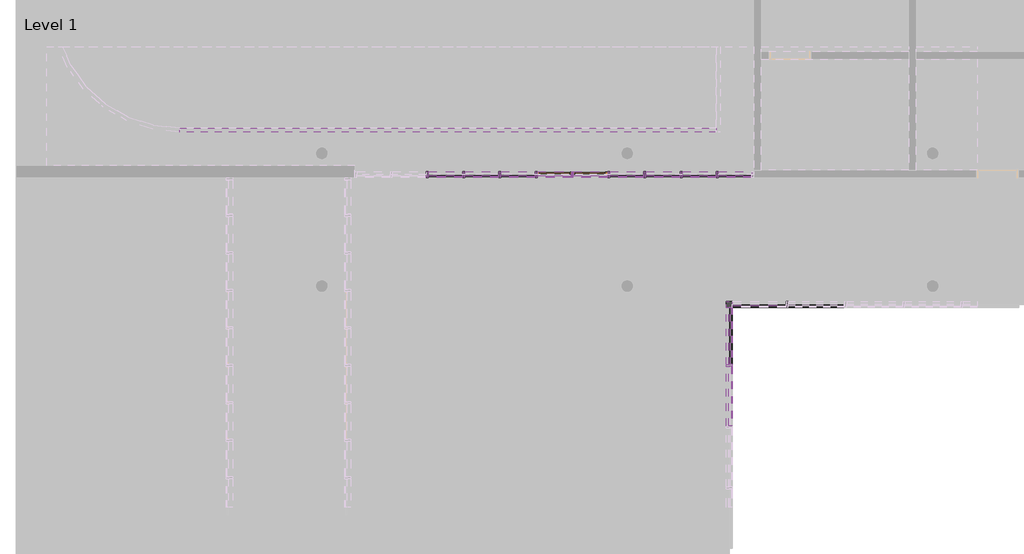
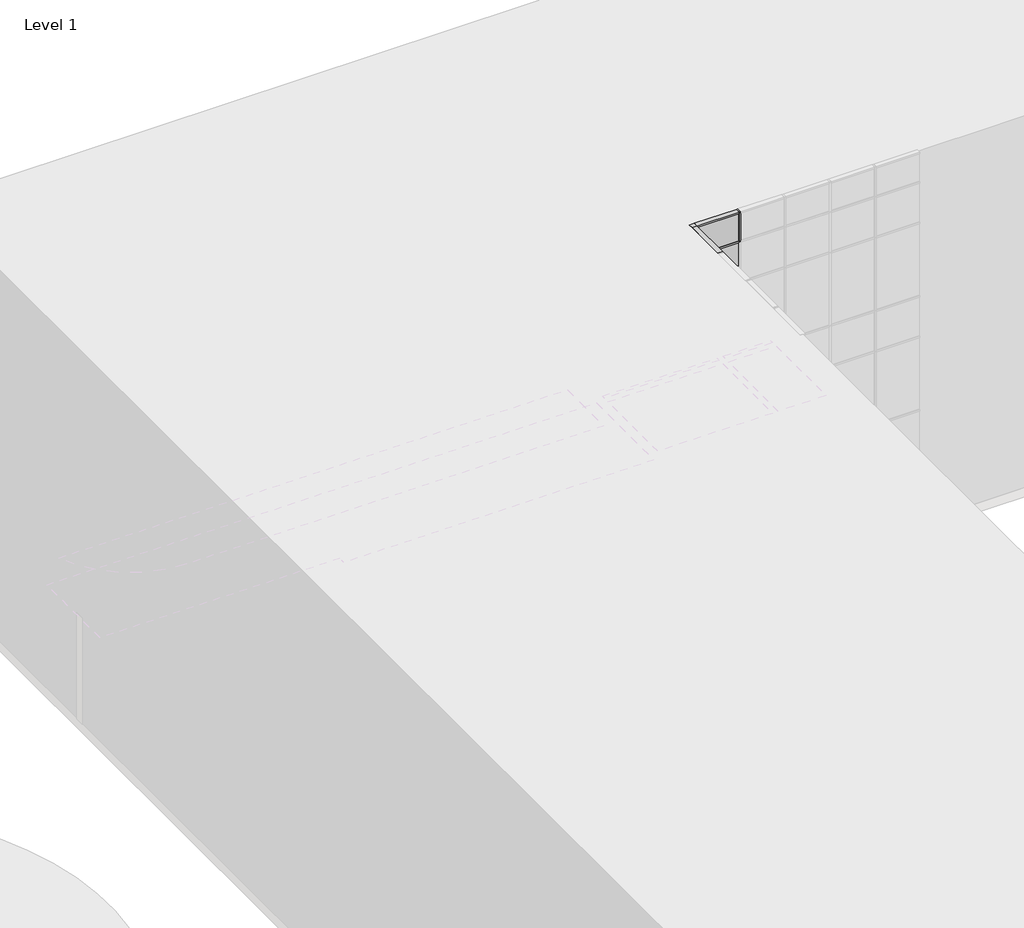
# One storey, part 14 of 18: 89 members, 30 plates, 1 door, 1 wall.
"""IFC4 building model written with IfcOpenShell, lengths in millimetres."""

from ifc_helpers import new_model, si_unit, frame, origin, place, context, project, spatial, polyline, outline, extrude, transform, mapped, element, save
from components import m_door_curtain_wall_double_storefront_m_door_curtain_wall_1244dbcd, quad_corner_mullion_quad_mullion_1_893af7fe, quad_corner_mullion_quad_mullion_1_37ac55ff, quad_corner_mullion_quad_mullion_1_d5379b67, rectangular_mullion_50mm_x_150mm_13593f2b, rectangular_mullion_50mm_x_150mm_0e57614d, rectangular_mullion_50mm_x_150mm_d8a63713, rectangular_mullion_50mm_x_150mm_a5e1a8f4, rectangular_mullion_50mm_x_150mm_caa46ae3, rectangular_mullion_50mm_x_150mm_228869d4, rectangular_mullion_50mm_x_150mm_eff96389, rectangular_mullion_50mm_x_150mm_a28728bf, rectangular_mullion_50mm_x_150mm_1cdaa0f1, rectangular_mullion_50mm_x_150mm_5226f6e8, rectangular_mullion_50mm_x_150mm_5a36e067, rectangular_mullion_50mm_x_150mm_4fd86324, rectangular_mullion_50mm_x_150mm_6edb5cd3, rectangular_mullion_50mm_x_150mm_4d4922e7, rectangular_mullion_50mm_x_150mm_da00b109, rectangular_mullion_50mm_x_150mm_bbc1c4ea, rectangular_mullion_50mm_x_150mm_36202a7c, rectangular_mullion_50mm_x_150mm_84717ec5, system_panel_glazed_dff54dbd, system_panel_glazed_4aef0c34, system_panel_glazed_3f9df8c7, system_panel_glazed_45ebec01, system_panel_glazed_2d0f29b6, system_panel_glazed_cb2ac81e, system_panel_glazed_0db3b356, system_panel_glazed_231014a1, system_panel_solid_281aa57f, system_panel_solid_71fc82a1, system_panel_solid_0b170172, system_panel_solid_c5c66014, system_panel_solid_b23a9ee6

model = new_model("IFC4")

# Units and contexts
model_context = context("Model", 3, world=origin())
ifc_project = project(units=[si_unit("LENGTHUNIT", "METRE", prefix="MILLI")], contexts=[model_context])

# Site, building, storey
site = spatial("IfcSite", under=ifc_project)
building = spatial("IfcBuilding", under=site)
storey = spatial("IfcBuildingStorey", under=building, Name="Level 1", Elevation=0.0)

# Door
placement = place(None, origin())
m_door_curtain_wall_double_storefront_m_door_curtain_wall_shape = m_door_curtain_wall_double_storefront_m_door_curtain_wall_1244dbcd(model_context)
element("IfcDoor", 1, ObjectType="M_Door-Curtain-Wall-Double-Storefront : M_Door-Curtain-Wall-Double-Storefront", at=placement, inside=storey, context=model_context, shape_type="MappedRepresentation", body=[
    mapped(m_door_curtain_wall_double_storefront_m_door_curtain_wall_shape, transform((3603.7102833, 22595.5799804, 0.0), x_axis=(-1.0, 0.0, 0.0), y_axis=(0.0, -1.0, 0.0), z_axis=(0.0, 0.0, 1.0))),
])

# Members
quad_corner_mullion_quad_mullion_1_shape = quad_corner_mullion_quad_mullion_1_893af7fe(model_context)
element("IfcMember", 2, ObjectType="Quad Corner Mullion : Quad Mullion 1", at=placement, inside=storey, context=model_context, shape_type="MappedRepresentation", body=[
    mapped(quad_corner_mullion_quad_mullion_1_shape, transform((7447.5010724, 19414.8392059, 11400.0), x_axis=(0.0, 1.0, 0.0), y_axis=(1.0, 0.0, 0.0), z_axis=(0.0, 0.0, -1.0))),
])
quad_corner_mullion_quad_mullion_1_2_shape = quad_corner_mullion_quad_mullion_1_37ac55ff(model_context)
element("IfcMember", 3, ObjectType="Quad Corner Mullion : Quad Mullion 1", at=placement, inside=storey, context=model_context, shape_type="MappedRepresentation", body=[
    mapped(quad_corner_mullion_quad_mullion_1_2_shape, transform((7447.5010724, 19414.8392059, 0.0), x_axis=(0.0, 1.0, 0.0), y_axis=(1.0, 0.0, 0.0), z_axis=(0.0, 0.0, -1.0))),
])
quad_corner_mullion_quad_mullion_1_3_shape = quad_corner_mullion_quad_mullion_1_d5379b67(model_context)
element("IfcMember", 4, ObjectType="Quad Corner Mullion : Quad Mullion 1", at=placement, inside=storey, context=model_context, shape_type="MappedRepresentation", body=[
    mapped(quad_corner_mullion_quad_mullion_1_3_shape, transform((7447.5010724, 19414.8392059, 10040.0), x_axis=(0.0, 1.0, 0.0), y_axis=(1.0, 0.0, 0.0), z_axis=(0.0, 0.0, -1.0))),
])
element("IfcMember", 5, ObjectType="Quad Corner Mullion : Quad Mullion 1", at=placement, inside=storey, context=model_context, shape_type="MappedRepresentation", body=[
    mapped(quad_corner_mullion_quad_mullion_1_3_shape, transform((7447.5010724, 19414.8392059, 6240.0), x_axis=(0.0, 1.0, 0.0), y_axis=(1.0, 0.0, 0.0), z_axis=(0.0, 0.0, -1.0))),
])
element("IfcMember", 6, ObjectType="Quad Corner Mullion : Quad Mullion 1", at=placement, inside=storey, context=model_context, shape_type="MappedRepresentation", body=[
    mapped(quad_corner_mullion_quad_mullion_1_3_shape, transform((7447.5010724, 19414.8392059, 2440.0), x_axis=(0.0, 1.0, 0.0), y_axis=(1.0, 0.0, 0.0), z_axis=(0.0, 0.0, -1.0))),
])
element("IfcMember", 7, ObjectType="Quad Corner Mullion : Quad Mullion 1", at=placement, inside=storey, context=model_context, shape_type="MappedRepresentation", body=[
    mapped(quad_corner_mullion_quad_mullion_1_2_shape, transform((7447.5010724, 19414.8392059, 3800.0), x_axis=(0.0, 1.0, 0.0), y_axis=(1.0, 0.0, 0.0), z_axis=(0.0, 0.0, -1.0))),
])
element("IfcMember", 8, ObjectType="Quad Corner Mullion : Quad Mullion 1", at=placement, inside=storey, context=model_context, shape_type="MappedRepresentation", body=[
    mapped(quad_corner_mullion_quad_mullion_1_2_shape, transform((7447.5010724, 19414.8392059, 7600.0), x_axis=(0.0, 1.0, 0.0), y_axis=(1.0, 0.0, 0.0), z_axis=(0.0, 0.0, -1.0))),
])
rectangular_mullion_50mm_x_150mm_shape = rectangular_mullion_50mm_x_150mm_13593f2b(model_context)
element("IfcMember", 9, ObjectType="Rectangular Mullion : 50mm x 150mm", at=placement, inside=storey, context=model_context, shape_type="MappedRepresentation", body=[
    mapped(rectangular_mullion_50mm_x_150mm_shape, transform((7997.5010724, 22595.5799804, 0.0), x_axis=(0.0, 0.0, -1.0), y_axis=(0.0, 1.0, 0.0), z_axis=(1.0, 0.0, 0.0))),
])
element("IfcMember", 10, ObjectType="Rectangular Mullion : 50mm x 150mm", at=placement, inside=storey, context=model_context, shape_type="MappedRepresentation", body=[
    mapped(rectangular_mullion_50mm_x_150mm_shape, transform((7183.7429143, 22595.5799804, 3550.0), x_axis=(0.0, 0.0, 1.0), y_axis=(0.0, 1.0, 0.0), z_axis=(-1.0, 0.0, 0.0))),
])
rectangular_mullion_50mm_x_150mm_2_shape = rectangular_mullion_50mm_x_150mm_0e57614d(model_context)
element("IfcMember", 11, ObjectType="Rectangular Mullion : 50mm x 150mm", at=placement, inside=storey, context=model_context, shape_type="MappedRepresentation", body=[
    mapped(rectangular_mullion_50mm_x_150mm_2_shape, transform((6294.9847566, 22595.5799804, 3550.0), x_axis=(0.0, 0.0, 1.0), y_axis=(0.0, 1.0, 0.0), z_axis=(-1.0, 0.0, 0.0))),
])
element("IfcMember", 12, ObjectType="Rectangular Mullion : 50mm x 150mm", at=placement, inside=storey, context=model_context, shape_type="MappedRepresentation", body=[
    mapped(rectangular_mullion_50mm_x_150mm_2_shape, transform((5406.2265988, 22595.5799804, 3550.0), x_axis=(0.0, 0.0, 1.0), y_axis=(0.0, 1.0, 0.0), z_axis=(-1.0, 0.0, 0.0))),
])
element("IfcMember", 13, ObjectType="Rectangular Mullion : 50mm x 150mm", at=placement, inside=storey, context=model_context, shape_type="MappedRepresentation", body=[
    mapped(rectangular_mullion_50mm_x_150mm_2_shape, transform((4517.4684411, 22595.5799804, 3550.0), x_axis=(0.0, 0.0, 1.0), y_axis=(0.0, 1.0, 0.0), z_axis=(-1.0, 0.0, 0.0))),
])
element("IfcMember", 14, ObjectType="Rectangular Mullion : 50mm x 150mm", at=placement, inside=storey, context=model_context, shape_type="MappedRepresentation", body=[
    mapped(rectangular_mullion_50mm_x_150mm_2_shape, transform((3628.7102833, 22595.5799804, 3550.0), x_axis=(0.0, 0.0, 1.0), y_axis=(0.0, 1.0, 0.0), z_axis=(-1.0, 0.0, 0.0))),
])
element("IfcMember", 15, ObjectType="Rectangular Mullion : 50mm x 150mm", at=placement, inside=storey, context=model_context, shape_type="MappedRepresentation", body=[
    mapped(rectangular_mullion_50mm_x_150mm_2_shape, transform((2739.9521255, 22595.5799804, 3550.0), x_axis=(0.0, 0.0, 1.0), y_axis=(0.0, 1.0, 0.0), z_axis=(-1.0, 0.0, 0.0))),
])
element("IfcMember", 16, ObjectType="Rectangular Mullion : 50mm x 150mm", at=placement, inside=storey, context=model_context, shape_type="MappedRepresentation", body=[
    mapped(rectangular_mullion_50mm_x_150mm_2_shape, transform((1851.1939678, 22595.5799804, 3550.0), x_axis=(0.0, 0.0, 1.0), y_axis=(0.0, 1.0, 0.0), z_axis=(-1.0, 0.0, 0.0))),
])
element("IfcMember", 17, ObjectType="Rectangular Mullion : 50mm x 150mm", at=placement, inside=storey, context=model_context, shape_type="MappedRepresentation", body=[
    mapped(rectangular_mullion_50mm_x_150mm_2_shape, transform((962.43581, 22595.5799804, 3550.0), x_axis=(0.0, 0.0, 1.0), y_axis=(0.0, 1.0, 0.0), z_axis=(-1.0, 0.0, 0.0))),
])
element("IfcMember", 18, ObjectType="Rectangular Mullion : 50mm x 150mm", at=placement, inside=storey, context=model_context, shape_type="MappedRepresentation", body=[
    mapped(rectangular_mullion_50mm_x_150mm_2_shape, transform((73.6776523, 22595.5799804, 3550.0), x_axis=(0.0, 0.0, 1.0), y_axis=(0.0, 1.0, 0.0), z_axis=(-1.0, 0.0, 0.0))),
])
element("IfcMember", 19, ObjectType="Rectangular Mullion : 50mm x 150mm", at=placement, inside=storey, context=model_context, shape_type="MappedRepresentation", body=[
    mapped(rectangular_mullion_50mm_x_150mm_2_shape, transform((7133.7429143, 22595.5799804, 0.0), x_axis=(0.0, 0.0, -1.0), y_axis=(0.0, 1.0, 0.0), z_axis=(1.0, 0.0, 0.0))),
])
element("IfcMember", 20, ObjectType="Rectangular Mullion : 50mm x 150mm", at=placement, inside=storey, context=model_context, shape_type="MappedRepresentation", body=[
    mapped(rectangular_mullion_50mm_x_150mm_2_shape, transform((6244.9847566, 22595.5799804, 0.0), x_axis=(0.0, 0.0, -1.0), y_axis=(0.0, 1.0, 0.0), z_axis=(1.0, 0.0, 0.0))),
])
element("IfcMember", 21, ObjectType="Rectangular Mullion : 50mm x 150mm", at=placement, inside=storey, context=model_context, shape_type="MappedRepresentation", body=[
    mapped(rectangular_mullion_50mm_x_150mm_2_shape, transform((5356.2265988, 22595.5799804, 0.0), x_axis=(0.0, 0.0, -1.0), y_axis=(0.0, 1.0, 0.0), z_axis=(1.0, 0.0, 0.0))),
])
element("IfcMember", 22, ObjectType="Rectangular Mullion : 50mm x 150mm", at=placement, inside=storey, context=model_context, shape_type="MappedRepresentation", body=[
    mapped(rectangular_mullion_50mm_x_150mm_2_shape, transform((2689.9521255, 22595.5799804, 0.0), x_axis=(0.0, 0.0, -1.0), y_axis=(0.0, 1.0, 0.0), z_axis=(1.0, 0.0, 0.0))),
])
element("IfcMember", 23, ObjectType="Rectangular Mullion : 50mm x 150mm", at=placement, inside=storey, context=model_context, shape_type="MappedRepresentation", body=[
    mapped(rectangular_mullion_50mm_x_150mm_2_shape, transform((1801.1939678, 22595.5799804, 0.0), x_axis=(0.0, 0.0, -1.0), y_axis=(0.0, 1.0, 0.0), z_axis=(1.0, 0.0, 0.0))),
])
element("IfcMember", 24, ObjectType="Rectangular Mullion : 50mm x 150mm", at=placement, inside=storey, context=model_context, shape_type="MappedRepresentation", body=[
    mapped(rectangular_mullion_50mm_x_150mm_2_shape, transform((912.43581, 22595.5799804, 0.0), x_axis=(0.0, 0.0, -1.0), y_axis=(0.0, 1.0, 0.0), z_axis=(1.0, 0.0, 0.0))),
])
element("IfcMember", 25, ObjectType="Rectangular Mullion : 50mm x 150mm", at=placement, inside=storey, context=model_context, shape_type="MappedRepresentation", body=[
    mapped(rectangular_mullion_50mm_x_150mm_2_shape, transform((23.6776523, 22595.5799804, 0.0), x_axis=(0.0, 0.0, -1.0), y_axis=(0.0, 1.0, 0.0), z_axis=(1.0, 0.0, 0.0))),
])
rectangular_mullion_50mm_x_150mm_3_shape = rectangular_mullion_50mm_x_150mm_d8a63713(model_context)
element("IfcMember", 26, ObjectType="Rectangular Mullion : 50mm x 150mm", at=placement, inside=storey, context=model_context, shape_type="MappedRepresentation", body=[
    mapped(rectangular_mullion_50mm_x_150mm_3_shape, transform((7158.7429143, 22595.5799804, 0.0), x_axis=(-1.0, 0.0, 0.0), y_axis=(0.0, 1.0, 0.0), z_axis=(0.0, 0.0, -1.0))),
])
element("IfcMember", 27, ObjectType="Rectangular Mullion : 50mm x 150mm", at=placement, inside=storey, context=model_context, shape_type="MappedRepresentation", body=[
    mapped(rectangular_mullion_50mm_x_150mm_3_shape, transform((6269.9847566, 22595.5799804, 0.0), x_axis=(-1.0, 0.0, 0.0), y_axis=(0.0, 1.0, 0.0), z_axis=(0.0, 0.0, -1.0))),
])
element("IfcMember", 28, ObjectType="Rectangular Mullion : 50mm x 150mm", at=placement, inside=storey, context=model_context, shape_type="MappedRepresentation", body=[
    mapped(rectangular_mullion_50mm_x_150mm_3_shape, transform((5381.2265988, 22595.5799804, 0.0), x_axis=(-1.0, 0.0, 0.0), y_axis=(0.0, 1.0, 0.0), z_axis=(0.0, 0.0, -1.0))),
])
element("IfcMember", 29, ObjectType="Rectangular Mullion : 50mm x 150mm", at=placement, inside=storey, context=model_context, shape_type="MappedRepresentation", body=[
    mapped(rectangular_mullion_50mm_x_150mm_3_shape, transform((4492.4684411, 22595.5799804, 0.0), x_axis=(-1.0, 0.0, 0.0), y_axis=(0.0, 1.0, 0.0), z_axis=(0.0, 0.0, -1.0))),
])
element("IfcMember", 30, ObjectType="Rectangular Mullion : 50mm x 150mm", at=placement, inside=storey, context=model_context, shape_type="MappedRepresentation", body=[
    mapped(rectangular_mullion_50mm_x_150mm_3_shape, transform((2714.9521255, 22595.5799804, 0.0), x_axis=(-1.0, 0.0, 0.0), y_axis=(0.0, 1.0, 0.0), z_axis=(0.0, 0.0, -1.0))),
])
element("IfcMember", 31, ObjectType="Rectangular Mullion : 50mm x 150mm", at=placement, inside=storey, context=model_context, shape_type="MappedRepresentation", body=[
    mapped(rectangular_mullion_50mm_x_150mm_3_shape, transform((1826.1939678, 22595.5799804, 0.0), x_axis=(-1.0, 0.0, 0.0), y_axis=(0.0, 1.0, 0.0), z_axis=(0.0, 0.0, -1.0))),
])
element("IfcMember", 32, ObjectType="Rectangular Mullion : 50mm x 150mm", at=placement, inside=storey, context=model_context, shape_type="MappedRepresentation", body=[
    mapped(rectangular_mullion_50mm_x_150mm_3_shape, transform((937.43581, 22595.5799804, 0.0), x_axis=(-1.0, 0.0, 0.0), y_axis=(0.0, 1.0, 0.0), z_axis=(0.0, 0.0, -1.0))),
])
element("IfcMember", 33, ObjectType="Rectangular Mullion : 50mm x 150mm", at=placement, inside=storey, context=model_context, shape_type="MappedRepresentation", body=[
    mapped(rectangular_mullion_50mm_x_150mm_3_shape, transform((48.6776523, 22595.5799804, 0.0), x_axis=(-1.0, 0.0, 0.0), y_axis=(0.0, 1.0, 0.0), z_axis=(0.0, 0.0, -1.0))),
])
rectangular_mullion_50mm_x_150mm_4_shape = rectangular_mullion_50mm_x_150mm_a5e1a8f4(model_context)
element("IfcMember", 34, ObjectType="Rectangular Mullion : 50mm x 150mm", at=placement, inside=storey, context=model_context, shape_type="MappedRepresentation", body=[
    mapped(rectangular_mullion_50mm_x_150mm_4_shape, transform((7183.7429143, 22595.5799804, 2235.0), x_axis=(0.0, 0.0, 1.0), y_axis=(0.0, 1.0, 0.0), z_axis=(-1.0, 0.0, 0.0))),
])
element("IfcMember", 35, ObjectType="Rectangular Mullion : 50mm x 150mm", at=placement, inside=storey, context=model_context, shape_type="MappedRepresentation", body=[
    mapped(rectangular_mullion_50mm_x_150mm_4_shape, transform((7183.7429143, 22595.5799804, 2135.0), x_axis=(0.0, 0.0, 1.0), y_axis=(0.0, 1.0, 0.0), z_axis=(-1.0, 0.0, 0.0))),
])
rectangular_mullion_50mm_x_150mm_5_shape = rectangular_mullion_50mm_x_150mm_caa46ae3(model_context)
element("IfcMember", 36, ObjectType="Rectangular Mullion : 50mm x 150mm", at=placement, inside=storey, context=model_context, shape_type="MappedRepresentation", body=[
    mapped(rectangular_mullion_50mm_x_150mm_5_shape, transform((6294.9847566, 22595.5799804, 2235.0), x_axis=(0.0, 0.0, 1.0), y_axis=(0.0, 1.0, 0.0), z_axis=(-1.0, 0.0, 0.0))),
])
element("IfcMember", 37, ObjectType="Rectangular Mullion : 50mm x 150mm", at=placement, inside=storey, context=model_context, shape_type="MappedRepresentation", body=[
    mapped(rectangular_mullion_50mm_x_150mm_5_shape, transform((5406.2265988, 22595.5799804, 2235.0), x_axis=(0.0, 0.0, 1.0), y_axis=(0.0, 1.0, 0.0), z_axis=(-1.0, 0.0, 0.0))),
])
element("IfcMember", 38, ObjectType="Rectangular Mullion : 50mm x 150mm", at=placement, inside=storey, context=model_context, shape_type="MappedRepresentation", body=[
    mapped(rectangular_mullion_50mm_x_150mm_5_shape, transform((4517.4684411, 22595.5799804, 2235.0), x_axis=(0.0, 0.0, 1.0), y_axis=(0.0, 1.0, 0.0), z_axis=(-1.0, 0.0, 0.0))),
])
element("IfcMember", 39, ObjectType="Rectangular Mullion : 50mm x 150mm", at=placement, inside=storey, context=model_context, shape_type="MappedRepresentation", body=[
    mapped(rectangular_mullion_50mm_x_150mm_5_shape, transform((1851.1939678, 22595.5799804, 2235.0), x_axis=(0.0, 0.0, 1.0), y_axis=(0.0, 1.0, 0.0), z_axis=(-1.0, 0.0, 0.0))),
])
element("IfcMember", 40, ObjectType="Rectangular Mullion : 50mm x 150mm", at=placement, inside=storey, context=model_context, shape_type="MappedRepresentation", body=[
    mapped(rectangular_mullion_50mm_x_150mm_5_shape, transform((962.43581, 22595.5799804, 2235.0), x_axis=(0.0, 0.0, 1.0), y_axis=(0.0, 1.0, 0.0), z_axis=(-1.0, 0.0, 0.0))),
])
element("IfcMember", 41, ObjectType="Rectangular Mullion : 50mm x 150mm", at=placement, inside=storey, context=model_context, shape_type="MappedRepresentation", body=[
    mapped(rectangular_mullion_50mm_x_150mm_5_shape, transform((73.6776523, 22595.5799804, 2235.0), x_axis=(0.0, 0.0, 1.0), y_axis=(0.0, 1.0, 0.0), z_axis=(-1.0, 0.0, 0.0))),
])
element("IfcMember", 42, ObjectType="Rectangular Mullion : 50mm x 150mm", at=placement, inside=storey, context=model_context, shape_type="MappedRepresentation", body=[
    mapped(rectangular_mullion_50mm_x_150mm_5_shape, transform((6294.9847566, 22595.5799804, 2135.0), x_axis=(0.0, 0.0, 1.0), y_axis=(0.0, 1.0, 0.0), z_axis=(-1.0, 0.0, 0.0))),
])
element("IfcMember", 43, ObjectType="Rectangular Mullion : 50mm x 150mm", at=placement, inside=storey, context=model_context, shape_type="MappedRepresentation", body=[
    mapped(rectangular_mullion_50mm_x_150mm_5_shape, transform((5406.2265988, 22595.5799804, 2135.0), x_axis=(0.0, 0.0, 1.0), y_axis=(0.0, 1.0, 0.0), z_axis=(-1.0, 0.0, 0.0))),
])
element("IfcMember", 44, ObjectType="Rectangular Mullion : 50mm x 150mm", at=placement, inside=storey, context=model_context, shape_type="MappedRepresentation", body=[
    mapped(rectangular_mullion_50mm_x_150mm_5_shape, transform((4517.4684411, 22595.5799804, 2135.0), x_axis=(0.0, 0.0, 1.0), y_axis=(0.0, 1.0, 0.0), z_axis=(-1.0, 0.0, 0.0))),
])
element("IfcMember", 45, ObjectType="Rectangular Mullion : 50mm x 150mm", at=placement, inside=storey, context=model_context, shape_type="MappedRepresentation", body=[
    mapped(rectangular_mullion_50mm_x_150mm_5_shape, transform((3628.7102833, 22595.5799804, 2135.0), x_axis=(0.0, 0.0, 1.0), y_axis=(0.0, 1.0, 0.0), z_axis=(-1.0, 0.0, 0.0))),
])
element("IfcMember", 46, ObjectType="Rectangular Mullion : 50mm x 150mm", at=placement, inside=storey, context=model_context, shape_type="MappedRepresentation", body=[
    mapped(rectangular_mullion_50mm_x_150mm_5_shape, transform((2739.9521255, 22595.5799804, 2135.0), x_axis=(0.0, 0.0, 1.0), y_axis=(0.0, 1.0, 0.0), z_axis=(-1.0, 0.0, 0.0))),
])
element("IfcMember", 47, ObjectType="Rectangular Mullion : 50mm x 150mm", at=placement, inside=storey, context=model_context, shape_type="MappedRepresentation", body=[
    mapped(rectangular_mullion_50mm_x_150mm_5_shape, transform((1851.1939678, 22595.5799804, 2135.0), x_axis=(0.0, 0.0, 1.0), y_axis=(0.0, 1.0, 0.0), z_axis=(-1.0, 0.0, 0.0))),
])
element("IfcMember", 48, ObjectType="Rectangular Mullion : 50mm x 150mm", at=placement, inside=storey, context=model_context, shape_type="MappedRepresentation", body=[
    mapped(rectangular_mullion_50mm_x_150mm_5_shape, transform((962.43581, 22595.5799804, 2135.0), x_axis=(0.0, 0.0, 1.0), y_axis=(0.0, 1.0, 0.0), z_axis=(-1.0, 0.0, 0.0))),
])
element("IfcMember", 49, ObjectType="Rectangular Mullion : 50mm x 150mm", at=placement, inside=storey, context=model_context, shape_type="MappedRepresentation", body=[
    mapped(rectangular_mullion_50mm_x_150mm_5_shape, transform((73.6776523, 22595.5799804, 2135.0), x_axis=(0.0, 0.0, 1.0), y_axis=(0.0, 1.0, 0.0), z_axis=(-1.0, 0.0, 0.0))),
])
rectangular_mullion_50mm_x_150mm_6_shape = rectangular_mullion_50mm_x_150mm_228869d4(model_context)
element("IfcMember", 50, ObjectType="Rectangular Mullion : 50mm x 150mm", at=placement, inside=storey, context=model_context, shape_type="MappedRepresentation", body=[
    mapped(rectangular_mullion_50mm_x_150mm_6_shape, transform((3603.7102833, 22595.5799804, 2235.0), x_axis=(0.0, 0.0, 1.0), y_axis=(0.0, 1.0, 0.0), z_axis=(-1.0, 0.0, 0.0))),
])
element("IfcMember", 51, ObjectType="Rectangular Mullion : 50mm x 150mm", at=placement, inside=storey, context=model_context, shape_type="MappedRepresentation", body=[
    mapped(rectangular_mullion_50mm_x_150mm_6_shape, transform((2739.9521255, 22595.5799804, 2235.0), x_axis=(0.0, 0.0, 1.0), y_axis=(0.0, 1.0, 0.0), z_axis=(-1.0, 0.0, 0.0))),
])
rectangular_mullion_50mm_x_150mm_7_shape = rectangular_mullion_50mm_x_150mm_eff96389(model_context)
element("IfcMember", 52, ObjectType="Rectangular Mullion : 50mm x 150mm", at=placement, inside=storey, context=model_context, shape_type="MappedRepresentation", body=[
    mapped(rectangular_mullion_50mm_x_150mm_7_shape, transform((7158.7429143, 22595.5799804, 2235.0), x_axis=(-1.0, 0.0, 0.0), y_axis=(0.0, 1.0, 0.0), z_axis=(0.0, 0.0, -1.0))),
])
element("IfcMember", 53, ObjectType="Rectangular Mullion : 50mm x 150mm", at=placement, inside=storey, context=model_context, shape_type="MappedRepresentation", body=[
    mapped(rectangular_mullion_50mm_x_150mm_7_shape, transform((6269.9847566, 22595.5799804, 2235.0), x_axis=(-1.0, 0.0, 0.0), y_axis=(0.0, 1.0, 0.0), z_axis=(0.0, 0.0, -1.0))),
])
element("IfcMember", 54, ObjectType="Rectangular Mullion : 50mm x 150mm", at=placement, inside=storey, context=model_context, shape_type="MappedRepresentation", body=[
    mapped(rectangular_mullion_50mm_x_150mm_7_shape, transform((5381.2265988, 22595.5799804, 2235.0), x_axis=(-1.0, 0.0, 0.0), y_axis=(0.0, 1.0, 0.0), z_axis=(0.0, 0.0, -1.0))),
])
element("IfcMember", 55, ObjectType="Rectangular Mullion : 50mm x 150mm", at=placement, inside=storey, context=model_context, shape_type="MappedRepresentation", body=[
    mapped(rectangular_mullion_50mm_x_150mm_7_shape, transform((4492.4684411, 22595.5799804, 2235.0), x_axis=(-1.0, 0.0, 0.0), y_axis=(0.0, 1.0, 0.0), z_axis=(0.0, 0.0, -1.0))),
])
element("IfcMember", 56, ObjectType="Rectangular Mullion : 50mm x 150mm", at=placement, inside=storey, context=model_context, shape_type="MappedRepresentation", body=[
    mapped(rectangular_mullion_50mm_x_150mm_7_shape, transform((2714.9521255, 22595.5799804, 2235.0), x_axis=(-1.0, 0.0, 0.0), y_axis=(0.0, 1.0, 0.0), z_axis=(0.0, 0.0, -1.0))),
])
element("IfcMember", 57, ObjectType="Rectangular Mullion : 50mm x 150mm", at=placement, inside=storey, context=model_context, shape_type="MappedRepresentation", body=[
    mapped(rectangular_mullion_50mm_x_150mm_7_shape, transform((1826.1939678, 22595.5799804, 2235.0), x_axis=(-1.0, 0.0, 0.0), y_axis=(0.0, 1.0, 0.0), z_axis=(0.0, 0.0, -1.0))),
])
element("IfcMember", 58, ObjectType="Rectangular Mullion : 50mm x 150mm", at=placement, inside=storey, context=model_context, shape_type="MappedRepresentation", body=[
    mapped(rectangular_mullion_50mm_x_150mm_7_shape, transform((937.43581, 22595.5799804, 2235.0), x_axis=(-1.0, 0.0, 0.0), y_axis=(0.0, 1.0, 0.0), z_axis=(0.0, 0.0, -1.0))),
])
element("IfcMember", 59, ObjectType="Rectangular Mullion : 50mm x 150mm", at=placement, inside=storey, context=model_context, shape_type="MappedRepresentation", body=[
    mapped(rectangular_mullion_50mm_x_150mm_7_shape, transform((48.6776523, 22595.5799804, 2235.0), x_axis=(-1.0, 0.0, 0.0), y_axis=(0.0, 1.0, 0.0), z_axis=(0.0, 0.0, -1.0))),
])
rectangular_mullion_50mm_x_150mm_8_shape = rectangular_mullion_50mm_x_150mm_a28728bf(model_context)
element("IfcMember", 60, ObjectType="Rectangular Mullion : 50mm x 150mm", at=placement, inside=storey, context=model_context, shape_type="MappedRepresentation", body=[
    mapped(rectangular_mullion_50mm_x_150mm_8_shape, transform((7158.7429143, 22595.5799804, 2135.0), x_axis=(-1.0, 0.0, 0.0), y_axis=(0.0, 1.0, 0.0), z_axis=(0.0, 0.0, -1.0))),
])
element("IfcMember", 61, ObjectType="Rectangular Mullion : 50mm x 150mm", at=placement, inside=storey, context=model_context, shape_type="MappedRepresentation", body=[
    mapped(rectangular_mullion_50mm_x_150mm_8_shape, transform((6269.9847566, 22595.5799804, 2135.0), x_axis=(-1.0, 0.0, 0.0), y_axis=(0.0, 1.0, 0.0), z_axis=(0.0, 0.0, -1.0))),
])
element("IfcMember", 62, ObjectType="Rectangular Mullion : 50mm x 150mm", at=placement, inside=storey, context=model_context, shape_type="MappedRepresentation", body=[
    mapped(rectangular_mullion_50mm_x_150mm_8_shape, transform((5381.2265988, 22595.5799804, 2135.0), x_axis=(-1.0, 0.0, 0.0), y_axis=(0.0, 1.0, 0.0), z_axis=(0.0, 0.0, -1.0))),
])
element("IfcMember", 63, ObjectType="Rectangular Mullion : 50mm x 150mm", at=placement, inside=storey, context=model_context, shape_type="MappedRepresentation", body=[
    mapped(rectangular_mullion_50mm_x_150mm_8_shape, transform((4492.4684411, 22595.5799804, 2135.0), x_axis=(-1.0, 0.0, 0.0), y_axis=(0.0, 1.0, 0.0), z_axis=(0.0, 0.0, -1.0))),
])
element("IfcMember", 64, ObjectType="Rectangular Mullion : 50mm x 150mm", at=placement, inside=storey, context=model_context, shape_type="MappedRepresentation", body=[
    mapped(rectangular_mullion_50mm_x_150mm_8_shape, transform((2714.9521255, 22595.5799804, 2135.0), x_axis=(-1.0, 0.0, 0.0), y_axis=(0.0, 1.0, 0.0), z_axis=(0.0, 0.0, -1.0))),
])
element("IfcMember", 65, ObjectType="Rectangular Mullion : 50mm x 150mm", at=placement, inside=storey, context=model_context, shape_type="MappedRepresentation", body=[
    mapped(rectangular_mullion_50mm_x_150mm_8_shape, transform((1826.1939678, 22595.5799804, 2135.0), x_axis=(-1.0, 0.0, 0.0), y_axis=(0.0, 1.0, 0.0), z_axis=(0.0, 0.0, -1.0))),
])
element("IfcMember", 66, ObjectType="Rectangular Mullion : 50mm x 150mm", at=placement, inside=storey, context=model_context, shape_type="MappedRepresentation", body=[
    mapped(rectangular_mullion_50mm_x_150mm_8_shape, transform((937.43581, 22595.5799804, 2135.0), x_axis=(-1.0, 0.0, 0.0), y_axis=(0.0, 1.0, 0.0), z_axis=(0.0, 0.0, -1.0))),
])
element("IfcMember", 67, ObjectType="Rectangular Mullion : 50mm x 150mm", at=placement, inside=storey, context=model_context, shape_type="MappedRepresentation", body=[
    mapped(rectangular_mullion_50mm_x_150mm_8_shape, transform((48.6776523, 22595.5799804, 2135.0), x_axis=(-1.0, 0.0, 0.0), y_axis=(0.0, 1.0, 0.0), z_axis=(0.0, 0.0, -1.0))),
])
rectangular_mullion_50mm_x_150mm_9_shape = rectangular_mullion_50mm_x_150mm_1cdaa0f1(model_context)
element("IfcMember", 68, ObjectType="Rectangular Mullion : 50mm x 150mm", at=placement, inside=storey, context=model_context, shape_type="MappedRepresentation", body=[
    mapped(rectangular_mullion_50mm_x_150mm_9_shape, transform((3603.7102833, 22595.5799804, 2110.0), x_axis=(-1.0, 0.0, 0.0), y_axis=(0.0, 1.0, 0.0), z_axis=(0.0, 0.0, -1.0))),
])
rectangular_mullion_50mm_x_150mm_10_shape = rectangular_mullion_50mm_x_150mm_5226f6e8(model_context)
element("IfcMember", 69, ObjectType="Rectangular Mullion : 50mm x 150mm", at=placement, inside=storey, context=model_context, shape_type="MappedRepresentation", body=[
    mapped(rectangular_mullion_50mm_x_150mm_10_shape, transform((7447.5010724, 17887.5915497, 6240.0), x_axis=(0.0, 0.0, 1.0), y_axis=(1.0, 0.0, 0.0), z_axis=(0.0, 1.0, 0.0))),
])
element("IfcMember", 70, ObjectType="Rectangular Mullion : 50mm x 150mm", at=placement, inside=storey, context=model_context, shape_type="MappedRepresentation", body=[
    mapped(rectangular_mullion_50mm_x_150mm_10_shape, transform((7447.5010724, 17887.5915497, 2440.0), x_axis=(0.0, 0.0, 1.0), y_axis=(1.0, 0.0, 0.0), z_axis=(0.0, 1.0, 0.0))),
])
rectangular_mullion_50mm_x_150mm_11_shape = rectangular_mullion_50mm_x_150mm_5a36e067(model_context)
element("IfcMember", 71, ObjectType="Rectangular Mullion : 50mm x 150mm", at=placement, inside=storey, context=model_context, shape_type="MappedRepresentation", body=[
    mapped(rectangular_mullion_50mm_x_150mm_11_shape, transform((8898.529561, 19414.8392059, 0.0), x_axis=(0.0, 0.0, -1.0), y_axis=(0.0, -1.0, 0.0), z_axis=(-1.0, 0.0, 0.0))),
])
rectangular_mullion_50mm_x_150mm_12_shape = rectangular_mullion_50mm_x_150mm_4fd86324(model_context)
element("IfcMember", 72, ObjectType="Rectangular Mullion : 50mm x 150mm", at=placement, inside=storey, context=model_context, shape_type="MappedRepresentation", body=[
    mapped(rectangular_mullion_50mm_x_150mm_12_shape, transform((7447.5010724, 19339.8392059, 12400.0), x_axis=(0.0, 0.0, 1.0), y_axis=(1.0, 0.0, 0.0), z_axis=(0.0, 1.0, 0.0))),
])
element("IfcMember", 73, ObjectType="Rectangular Mullion : 50mm x 150mm", at=placement, inside=storey, context=model_context, shape_type="MappedRepresentation", body=[
    mapped(rectangular_mullion_50mm_x_150mm_12_shape, transform((7447.5010724, 17937.5915497, 0.0), x_axis=(0.0, 0.0, -1.0), y_axis=(1.0, 0.0, 0.0), z_axis=(0.0, -1.0, 0.0))),
])
rectangular_mullion_50mm_x_150mm_13_shape = rectangular_mullion_50mm_x_150mm_6edb5cd3(model_context)
element("IfcMember", 74, ObjectType="Rectangular Mullion : 50mm x 150mm", at=placement, inside=storey, context=model_context, shape_type="MappedRepresentation", body=[
    mapped(rectangular_mullion_50mm_x_150mm_13_shape, transform((7447.5010724, 19339.8392059, 3800.0), x_axis=(0.0, 0.0, 1.0), y_axis=(1.0, 0.0, 0.0), z_axis=(0.0, 1.0, 0.0))),
])
element("IfcMember", 75, ObjectType="Rectangular Mullion : 50mm x 150mm", at=placement, inside=storey, context=model_context, shape_type="MappedRepresentation", body=[
    mapped(rectangular_mullion_50mm_x_150mm_13_shape, transform((7447.5010724, 19339.8392059, 7600.0), x_axis=(0.0, 0.0, 1.0), y_axis=(1.0, 0.0, 0.0), z_axis=(0.0, 1.0, 0.0))),
])
element("IfcMember", 76, ObjectType="Rectangular Mullion : 50mm x 150mm", at=placement, inside=storey, context=model_context, shape_type="MappedRepresentation", body=[
    mapped(rectangular_mullion_50mm_x_150mm_13_shape, transform((7447.5010724, 19339.8392059, 11400.0), x_axis=(0.0, 0.0, 1.0), y_axis=(1.0, 0.0, 0.0), z_axis=(0.0, 1.0, 0.0))),
])
element("IfcMember", 77, ObjectType="Rectangular Mullion : 50mm x 150mm", at=placement, inside=storey, context=model_context, shape_type="MappedRepresentation", body=[
    mapped(rectangular_mullion_50mm_x_150mm_13_shape, transform((7447.5010724, 19339.8392059, 10040.0), x_axis=(0.0, 0.0, 1.0), y_axis=(1.0, 0.0, 0.0), z_axis=(0.0, 1.0, 0.0))),
])
element("IfcMember", 78, ObjectType="Rectangular Mullion : 50mm x 150mm", at=placement, inside=storey, context=model_context, shape_type="MappedRepresentation", body=[
    mapped(rectangular_mullion_50mm_x_150mm_13_shape, transform((7447.5010724, 19339.8392059, 6240.0), x_axis=(0.0, 0.0, 1.0), y_axis=(1.0, 0.0, 0.0), z_axis=(0.0, 1.0, 0.0))),
])
element("IfcMember", 79, ObjectType="Rectangular Mullion : 50mm x 150mm", at=placement, inside=storey, context=model_context, shape_type="MappedRepresentation", body=[
    mapped(rectangular_mullion_50mm_x_150mm_13_shape, transform((7447.5010724, 19339.8392059, 2440.0), x_axis=(0.0, 0.0, 1.0), y_axis=(1.0, 0.0, 0.0), z_axis=(0.0, 1.0, 0.0))),
])
rectangular_mullion_50mm_x_150mm_14_shape = rectangular_mullion_50mm_x_150mm_4d4922e7(model_context)
element("IfcMember", 80, ObjectType="Rectangular Mullion : 50mm x 150mm", at=placement, inside=storey, context=model_context, shape_type="MappedRepresentation", body=[
    mapped(rectangular_mullion_50mm_x_150mm_14_shape, transform((8848.529561, 19414.8392059, 12400.0), x_axis=(0.0, 0.0, 1.0), y_axis=(0.0, -1.0, 0.0), z_axis=(1.0, 0.0, 0.0))),
])
element("IfcMember", 81, ObjectType="Rectangular Mullion : 50mm x 150mm", at=placement, inside=storey, context=model_context, shape_type="MappedRepresentation", body=[
    mapped(rectangular_mullion_50mm_x_150mm_14_shape, transform((7522.5010724, 19414.8392059, 0.0), x_axis=(0.0, 0.0, -1.0), y_axis=(0.0, -1.0, 0.0), z_axis=(-1.0, 0.0, 0.0))),
])
rectangular_mullion_50mm_x_150mm_15_shape = rectangular_mullion_50mm_x_150mm_da00b109(model_context)
element("IfcMember", 82, ObjectType="Rectangular Mullion : 50mm x 150mm", at=placement, inside=storey, context=model_context, shape_type="MappedRepresentation", body=[
    mapped(rectangular_mullion_50mm_x_150mm_15_shape, transform((8848.529561, 19414.8392059, 3800.0), x_axis=(0.0, 0.0, 1.0), y_axis=(0.0, -1.0, 0.0), z_axis=(1.0, 0.0, 0.0))),
])
element("IfcMember", 83, ObjectType="Rectangular Mullion : 50mm x 150mm", at=placement, inside=storey, context=model_context, shape_type="MappedRepresentation", body=[
    mapped(rectangular_mullion_50mm_x_150mm_15_shape, transform((8848.529561, 19414.8392059, 7600.0), x_axis=(0.0, 0.0, 1.0), y_axis=(0.0, -1.0, 0.0), z_axis=(1.0, 0.0, 0.0))),
])
element("IfcMember", 84, ObjectType="Rectangular Mullion : 50mm x 150mm", at=placement, inside=storey, context=model_context, shape_type="MappedRepresentation", body=[
    mapped(rectangular_mullion_50mm_x_150mm_15_shape, transform((8848.529561, 19414.8392059, 11400.0), x_axis=(0.0, 0.0, 1.0), y_axis=(0.0, -1.0, 0.0), z_axis=(1.0, 0.0, 0.0))),
])
rectangular_mullion_50mm_x_150mm_16_shape = rectangular_mullion_50mm_x_150mm_bbc1c4ea(model_context)
element("IfcMember", 85, ObjectType="Rectangular Mullion : 50mm x 150mm", at=placement, inside=storey, context=model_context, shape_type="MappedRepresentation", body=[
    mapped(rectangular_mullion_50mm_x_150mm_16_shape, transform((8873.529561, 19414.8392059, 11400.0), x_axis=(1.0, 0.0, 0.0), y_axis=(0.0, -1.0, 0.0), z_axis=(0.0, 0.0, -1.0))),
])
rectangular_mullion_50mm_x_150mm_17_shape = rectangular_mullion_50mm_x_150mm_36202a7c(model_context)
element("IfcMember", 86, ObjectType="Rectangular Mullion : 50mm x 150mm", at=placement, inside=storey, context=model_context, shape_type="MappedRepresentation", body=[
    mapped(rectangular_mullion_50mm_x_150mm_17_shape, transform((8873.529561, 19414.8392059, 0.0), x_axis=(1.0, 0.0, 0.0), y_axis=(0.0, -1.0, 0.0), z_axis=(0.0, 0.0, -1.0))),
])
rectangular_mullion_50mm_x_150mm_18_shape = rectangular_mullion_50mm_x_150mm_84717ec5(model_context)
element("IfcMember", 87, ObjectType="Rectangular Mullion : 50mm x 150mm", at=placement, inside=storey, context=model_context, shape_type="MappedRepresentation", body=[
    mapped(rectangular_mullion_50mm_x_150mm_18_shape, transform((7447.5010724, 17912.5915497, 6240.0), x_axis=(0.0, 1.0, 0.0), y_axis=(1.0, 0.0, 0.0), z_axis=(0.0, 0.0, -1.0))),
])
element("IfcMember", 88, ObjectType="Rectangular Mullion : 50mm x 150mm", at=placement, inside=storey, context=model_context, shape_type="MappedRepresentation", body=[
    mapped(rectangular_mullion_50mm_x_150mm_18_shape, transform((7447.5010724, 17912.5915497, 2440.0), x_axis=(0.0, 1.0, 0.0), y_axis=(1.0, 0.0, 0.0), z_axis=(0.0, 0.0, -1.0))),
])
element("IfcMember", 89, ObjectType="Rectangular Mullion : 50mm x 150mm", at=placement, inside=storey, context=model_context, shape_type="MappedRepresentation", body=[
    mapped(rectangular_mullion_50mm_x_150mm_17_shape, transform((8873.529561, 19414.8392059, 3800.0), x_axis=(1.0, 0.0, 0.0), y_axis=(0.0, -1.0, 0.0), z_axis=(0.0, 0.0, -1.0))),
])
element("IfcMember", 90, ObjectType="Rectangular Mullion : 50mm x 150mm", at=placement, inside=storey, context=model_context, shape_type="MappedRepresentation", body=[
    mapped(rectangular_mullion_50mm_x_150mm_17_shape, transform((8873.529561, 19414.8392059, 7600.0), x_axis=(1.0, 0.0, 0.0), y_axis=(0.0, -1.0, 0.0), z_axis=(0.0, 0.0, -1.0))),
])

# Plates
system_panel_glazed_shape = system_panel_glazed_dff54dbd(model_context)
element("IfcPlate", 91, ObjectType="System Panel : Glazed", at=placement, inside=storey, context=model_context, shape_type="MappedRepresentation", body=[
    mapped(system_panel_glazed_shape, transform((7590.6219933, 22595.5799804, 50.0), x_axis=(-1.0, 0.0, 0.0), y_axis=(0.0, -1.0, 0.0), z_axis=(0.0, 0.0, 1.0))),
])
system_panel_glazed_2_shape = system_panel_glazed_4aef0c34(model_context)
element("IfcPlate", 92, ObjectType="System Panel : Glazed", at=placement, inside=storey, context=model_context, shape_type="MappedRepresentation", body=[
    mapped(system_panel_glazed_2_shape, transform((6714.3638354, 22595.5799804, 50.0), x_axis=(-1.0, 0.0, 0.0), y_axis=(0.0, -1.0, 0.0), z_axis=(0.0, 0.0, 1.0))),
])
element("IfcPlate", 93, ObjectType="System Panel : Glazed", at=placement, inside=storey, context=model_context, shape_type="MappedRepresentation", body=[
    mapped(system_panel_glazed_2_shape, transform((5825.6056777, 22595.5799804, 50.0), x_axis=(-1.0, 0.0, 0.0), y_axis=(0.0, -1.0, 0.0), z_axis=(0.0, 0.0, 1.0))),
])
element("IfcPlate", 94, ObjectType="System Panel : Glazed", at=placement, inside=storey, context=model_context, shape_type="MappedRepresentation", body=[
    mapped(system_panel_glazed_2_shape, transform((4936.8475199, 22595.5799804, 50.0), x_axis=(-1.0, 0.0, 0.0), y_axis=(0.0, -1.0, 0.0), z_axis=(0.0, 0.0, 1.0))),
])
element("IfcPlate", 95, ObjectType="System Panel : Glazed", at=placement, inside=storey, context=model_context, shape_type="MappedRepresentation", body=[
    mapped(system_panel_glazed_2_shape, transform((2270.5730467, 22595.5799804, 50.0), x_axis=(-1.0, 0.0, 0.0), y_axis=(0.0, -1.0, 0.0), z_axis=(0.0, 0.0, 1.0))),
])
element("IfcPlate", 96, ObjectType="System Panel : Glazed", at=placement, inside=storey, context=model_context, shape_type="MappedRepresentation", body=[
    mapped(system_panel_glazed_2_shape, transform((1381.8148889, 22595.5799804, 50.0), x_axis=(-1.0, 0.0, 0.0), y_axis=(0.0, -1.0, 0.0), z_axis=(0.0, 0.0, 1.0))),
])
element("IfcPlate", 97, ObjectType="System Panel : Glazed", at=placement, inside=storey, context=model_context, shape_type="MappedRepresentation", body=[
    mapped(system_panel_glazed_2_shape, transform((493.0567312, 22595.5799804, 50.0), x_axis=(-1.0, 0.0, 0.0), y_axis=(0.0, -1.0, 0.0), z_axis=(0.0, 0.0, 1.0))),
])
system_panel_glazed_3_shape = system_panel_glazed_3f9df8c7(model_context)
element("IfcPlate", 98, ObjectType="System Panel : Glazed", at=placement, inside=storey, context=model_context, shape_type="MappedRepresentation", body=[
    mapped(system_panel_glazed_3_shape, transform((7590.6219933, 22595.5799804, 2160.0), x_axis=(-1.0, 0.0, 0.0), y_axis=(0.0, -1.0, 0.0), z_axis=(0.0, 0.0, 1.0))),
])
system_panel_glazed_4_shape = system_panel_glazed_45ebec01(model_context)
element("IfcPlate", 99, ObjectType="System Panel : Glazed", at=placement, inside=storey, context=model_context, shape_type="MappedRepresentation", body=[
    mapped(system_panel_glazed_4_shape, transform((6714.3638354, 22595.5799804, 2160.0), x_axis=(-1.0, 0.0, 0.0), y_axis=(0.0, -1.0, 0.0), z_axis=(0.0, 0.0, 1.0))),
])
element("IfcPlate", 100, ObjectType="System Panel : Glazed", at=placement, inside=storey, context=model_context, shape_type="MappedRepresentation", body=[
    mapped(system_panel_glazed_4_shape, transform((5825.6056777, 22595.5799804, 2160.0), x_axis=(-1.0, 0.0, 0.0), y_axis=(0.0, -1.0, 0.0), z_axis=(0.0, 0.0, 1.0))),
])
element("IfcPlate", 101, ObjectType="System Panel : Glazed", at=placement, inside=storey, context=model_context, shape_type="MappedRepresentation", body=[
    mapped(system_panel_glazed_4_shape, transform((4936.8475199, 22595.5799804, 2160.0), x_axis=(-1.0, 0.0, 0.0), y_axis=(0.0, -1.0, 0.0), z_axis=(0.0, 0.0, 1.0))),
])
element("IfcPlate", 102, ObjectType="System Panel : Glazed", at=placement, inside=storey, context=model_context, shape_type="MappedRepresentation", body=[
    mapped(system_panel_glazed_4_shape, transform((4048.0893622, 22595.5799804, 2160.0), x_axis=(-1.0, 0.0, 0.0), y_axis=(0.0, -1.0, 0.0), z_axis=(0.0, 0.0, 1.0))),
])
element("IfcPlate", 103, ObjectType="System Panel : Glazed", at=placement, inside=storey, context=model_context, shape_type="MappedRepresentation", body=[
    mapped(system_panel_glazed_4_shape, transform((3159.3312044, 22595.5799804, 2160.0), x_axis=(-1.0, 0.0, 0.0), y_axis=(0.0, -1.0, 0.0), z_axis=(0.0, 0.0, 1.0))),
])
element("IfcPlate", 104, ObjectType="System Panel : Glazed", at=placement, inside=storey, context=model_context, shape_type="MappedRepresentation", body=[
    mapped(system_panel_glazed_4_shape, transform((2270.5730467, 22595.5799804, 2160.0), x_axis=(-1.0, 0.0, 0.0), y_axis=(0.0, -1.0, 0.0), z_axis=(0.0, 0.0, 1.0))),
])
element("IfcPlate", 105, ObjectType="System Panel : Glazed", at=placement, inside=storey, context=model_context, shape_type="MappedRepresentation", body=[
    mapped(system_panel_glazed_4_shape, transform((1381.8148889, 22595.5799804, 2160.0), x_axis=(-1.0, 0.0, 0.0), y_axis=(0.0, -1.0, 0.0), z_axis=(0.0, 0.0, 1.0))),
])
element("IfcPlate", 106, ObjectType="System Panel : Glazed", at=placement, inside=storey, context=model_context, shape_type="MappedRepresentation", body=[
    mapped(system_panel_glazed_4_shape, transform((493.0567312, 22595.5799804, 2160.0), x_axis=(-1.0, 0.0, 0.0), y_axis=(0.0, -1.0, 0.0), z_axis=(0.0, 0.0, 1.0))),
])
system_panel_glazed_5_shape = system_panel_glazed_2d0f29b6(model_context)
element("IfcPlate", 107, ObjectType="System Panel : Glazed", at=placement, inside=storey, context=model_context, shape_type="MappedRepresentation", body=[
    mapped(system_panel_glazed_5_shape, transform((7447.5010724, 18638.7153778, 3825.0), x_axis=(0.0, 1.0, 0.0), y_axis=(-1.0, 0.0, 0.0), z_axis=(0.0, 0.0, 1.0))),
])
element("IfcPlate", 108, ObjectType="System Panel : Glazed", at=placement, inside=storey, context=model_context, shape_type="MappedRepresentation", body=[
    mapped(system_panel_glazed_5_shape, transform((7447.5010724, 18638.7153778, 7625.0), x_axis=(0.0, 1.0, 0.0), y_axis=(-1.0, 0.0, 0.0), z_axis=(0.0, 0.0, 1.0))),
])
system_panel_glazed_6_shape = system_panel_glazed_cb2ac81e(model_context)
element("IfcPlate", 109, ObjectType="System Panel : Glazed", at=placement, inside=storey, context=model_context, shape_type="MappedRepresentation", body=[
    mapped(system_panel_glazed_6_shape, transform((7447.5010724, 18638.7153778, 50.0), x_axis=(0.0, 1.0, 0.0), y_axis=(-1.0, 0.0, 0.0), z_axis=(0.0, 0.0, 1.0))),
])
system_panel_glazed_7_shape = system_panel_glazed_0db3b356(model_context)
element("IfcPlate", 110, ObjectType="System Panel : Glazed", at=placement, inside=storey, context=model_context, shape_type="MappedRepresentation", body=[
    mapped(system_panel_glazed_7_shape, transform((8185.5153167, 19414.8392059, 3825.0), x_axis=(1.0, 0.0, 0.0), y_axis=(0.0, 1.0, 0.0), z_axis=(0.0, 0.0, 1.0))),
])
element("IfcPlate", 111, ObjectType="System Panel : Glazed", at=placement, inside=storey, context=model_context, shape_type="MappedRepresentation", body=[
    mapped(system_panel_glazed_7_shape, transform((8185.5153167, 19414.8392059, 7625.0), x_axis=(1.0, 0.0, 0.0), y_axis=(0.0, 1.0, 0.0), z_axis=(0.0, 0.0, 1.0))),
])
system_panel_glazed_8_shape = system_panel_glazed_231014a1(model_context)
element("IfcPlate", 112, ObjectType="System Panel : Glazed", at=placement, inside=storey, context=model_context, shape_type="MappedRepresentation", body=[
    mapped(system_panel_glazed_8_shape, transform((8185.5153167, 19414.8392059, 50.0), x_axis=(1.0, 0.0, 0.0), y_axis=(0.0, 1.0, 0.0), z_axis=(0.0, 0.0, 1.0))),
])
system_panel_solid_shape = system_panel_solid_281aa57f(model_context)
element("IfcPlate", 113, ObjectType="System Panel : Solid", at=placement, inside=storey, context=model_context, shape_type="MappedRepresentation", body=[
    mapped(system_panel_solid_shape, transform((7447.5010724, 18638.7153778, 11425.0), x_axis=(0.0, 1.0, 0.0), y_axis=(-1.0, 0.0, 0.0), z_axis=(0.0, 0.0, 1.0))),
])
system_panel_solid_2_shape = system_panel_solid_71fc82a1(model_context)
element("IfcPlate", 114, ObjectType="System Panel : Solid", at=placement, inside=storey, context=model_context, shape_type="MappedRepresentation", body=[
    mapped(system_panel_solid_2_shape, transform((7447.5010724, 18638.7153778, 10065.0), x_axis=(0.0, 1.0, 0.0), y_axis=(-1.0, 0.0, 0.0), z_axis=(0.0, 0.0, 1.0))),
])
element("IfcPlate", 115, ObjectType="System Panel : Solid", at=placement, inside=storey, context=model_context, shape_type="MappedRepresentation", body=[
    mapped(system_panel_solid_2_shape, transform((7447.5010724, 18638.7153778, 6265.0), x_axis=(0.0, 1.0, 0.0), y_axis=(-1.0, 0.0, 0.0), z_axis=(0.0, 0.0, 1.0))),
])
element("IfcPlate", 116, ObjectType="System Panel : Solid", at=placement, inside=storey, context=model_context, shape_type="MappedRepresentation", body=[
    mapped(system_panel_solid_2_shape, transform((7447.5010724, 18638.7153778, 2465.0), x_axis=(0.0, 1.0, 0.0), y_axis=(-1.0, 0.0, 0.0), z_axis=(0.0, 0.0, 1.0))),
])
system_panel_solid_3_shape = system_panel_solid_0b170172(model_context)
element("IfcPlate", 117, ObjectType="System Panel : Solid", at=placement, inside=storey, context=model_context, shape_type="MappedRepresentation", body=[
    mapped(system_panel_solid_3_shape, transform((7447.5010724, 17161.4677217, 6265.0), x_axis=(0.0, 1.0, 0.0), y_axis=(-1.0, 0.0, 0.0), z_axis=(0.0, 0.0, 1.0))),
])
element("IfcPlate", 118, ObjectType="System Panel : Solid", at=placement, inside=storey, context=model_context, shape_type="MappedRepresentation", body=[
    mapped(system_panel_solid_3_shape, transform((7447.5010724, 17161.4677217, 2465.0), x_axis=(0.0, 1.0, 0.0), y_axis=(-1.0, 0.0, 0.0), z_axis=(0.0, 0.0, 1.0))),
])
system_panel_solid_4_shape = system_panel_solid_c5c66014(model_context)
element("IfcPlate", 119, ObjectType="System Panel : Solid", at=placement, inside=storey, context=model_context, shape_type="MappedRepresentation", body=[
    mapped(system_panel_solid_4_shape, transform((8185.5153167, 19414.8392059, 11425.0), x_axis=(1.0, 0.0, 0.0), y_axis=(0.0, 1.0, 0.0), z_axis=(0.0, 0.0, 1.0))),
])
system_panel_solid_5_shape = system_panel_solid_b23a9ee6(model_context)
element("IfcPlate", 120, ObjectType="System Panel : Solid", at=placement, inside=storey, context=model_context, shape_type="MappedRepresentation", body=[
    mapped(system_panel_solid_5_shape, transform((8185.5153167, 19414.8392059, 10065.0), x_axis=(1.0, 0.0, 0.0), y_axis=(0.0, 1.0, 0.0), z_axis=(0.0, 0.0, 1.0))),
])

# Wall
element("IfcWall", 121, ObjectType="P3 96mm", at=placement, inside=storey, context=model_context, shape_type="SweptSolid", body=[
    extrude(outline(polyline([(-6028.8386635, 23742.5799804), (7127.5010724, 23742.5799804), (7127.5010724, 23646.5799804), (-6028.8386635, 23646.5799804), (-6028.8386635, 23742.5799804)])), frame((0.0, 0.0, 2497.0), z_axis=(0.0, 0.0, 1.0), x_axis=(1.0, 0.0, 0.0)), (0.0, 0.0, 1.0), 1053.0),
])

save(model, "model.ifc")
